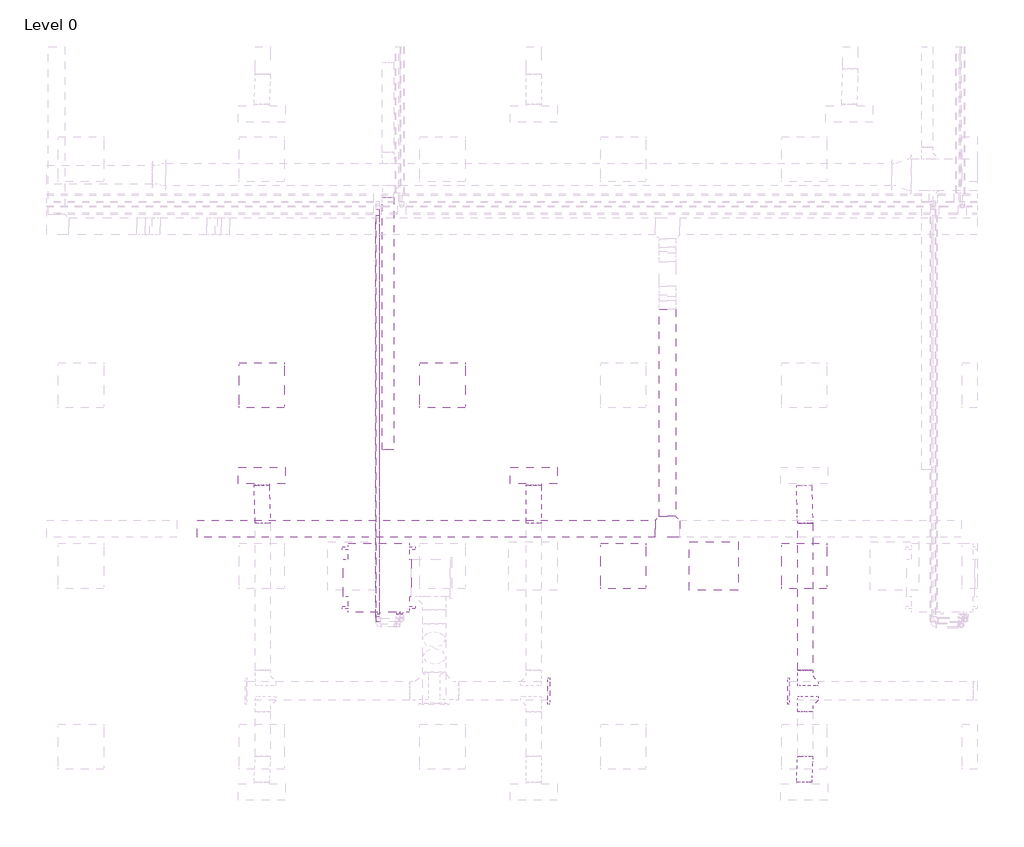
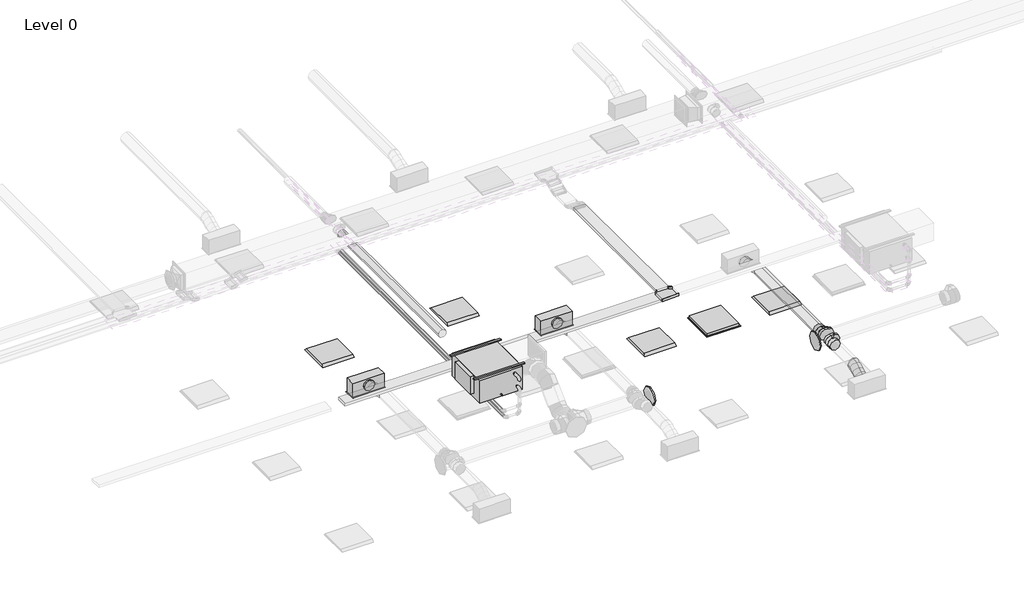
# One storey, part 9 of 34: 6 duct segments, 4 duct fittings, 4 light fixtures, 3 air terminals, 2 cable carrier segments, 2 pipe segments, 1 cable carrier fitting, 1 proxy.
"""IFC4 building model written with IfcOpenShell, lengths in millimetres."""

from ifc_helpers import new_model, si_unit, point, frame, frame_2d, origin, place, context, project, spatial, polyline, circle_curve, ellipse_curve, trimmed, segment, composite_curve, outline, extrude, transform, mapped, element, save
from ifc_brep_helpers import plane_surface, cylinder_surface, advanced_brep
from components import return_grille_rectangular_hosted_standard_7b12617c, supply_diffuser_with_plenum_linear_slot_hosted_8c379eed, fan_coil_unit_ceiling_ducted_chw_376_lps_05d42c19, cable_tray_horizontal_tee_standard_d76b5e15, dw144_round_blank_end_standard_9aa061e7, dw144_round_shoe_branch_slip_joint1_standard_2_15a2edd8, light_fixture_1c7c1157, light_fixture_b730b5ca

model = new_model("IFC4")

# Units and contexts
model_context = context("Model", 3, world=origin())
ifc_project = project(units=[si_unit("LENGTHUNIT", "METRE", prefix="MILLI")], contexts=[model_context])

# Site, building, storey
site = spatial("IfcSite", under=ifc_project)
building = spatial("IfcBuilding", under=site)
storey = spatial("IfcBuildingStorey", under=building, Name="Level 0", Elevation=0.0)

# Air terminals
placement = place(None, origin())
return_grille_rectangular_hosted_standard_shape = return_grille_rectangular_hosted_standard_7b12617c(model_context)
element("IfcAirTerminal", 1, ObjectType="Return Grille - Rectangular - Hosted : Standard", at=placement, inside=storey, context=model_context, shape_type="MappedRepresentation", body=[
    mapped(return_grille_rectangular_hosted_standard_shape, transform((22362.2000027, 3963.2000004, 2800.0), x_axis=(0.0, -1.0, 0.0), y_axis=(-1.0, 0.0, 0.0), z_axis=(0.0, 0.0, -1.0))),
])
supply_diffuser_with_plenum_linear_slot_hosted_shape = supply_diffuser_with_plenum_linear_slot_hosted_8c379eed(model_context)
element("IfcAirTerminal", 2, ObjectType="Supply Diffuser with Plenum - Linear Slot - Hosted : 24\" x 8\"-200 In Inlet  4-Slot", at=placement, inside=storey, context=model_context, shape_type="MappedRepresentation", body=[
    mapped(supply_diffuser_with_plenum_linear_slot_hosted_shape, transform((16362.2000027, 5163.2000004, 2800.0), x_axis=(-1.0, 0.0, 0.0), y_axis=(0.0, 1.0, 0.0), z_axis=(0.0, 0.0, -1.0))),
])
element("IfcAirTerminal", 3, ObjectType="Supply Diffuser with Plenum - Linear Slot - Hosted : 24\" x 8\"-200 In Inlet  4-Slot", at=placement, inside=storey, context=model_context, shape_type="MappedRepresentation", body=[
    mapped(supply_diffuser_with_plenum_linear_slot_hosted_shape, transform((19973.9000022, 5163.2000004, 2800.0), x_axis=(-1.0, 0.0, 0.0), y_axis=(0.0, 1.0, 0.0), z_axis=(0.0, 0.0, -1.0))),
])

# Proxy
fan_coil_unit_ceiling_ducted_chw_376_lps_shape = fan_coil_unit_ceiling_ducted_chw_376_lps_05d42c19(model_context)
element("IfcBuildingElementProxy", 4, Name="Fan Coil Unit - Ceiling Ducted - CHW : 376 LPS", ObjectType="Fan Coil Unit - Ceiling Ducted - CHW : 376 LPS", at=placement, inside=storey, context=model_context, shape_type="MappedRepresentation", body=[
    mapped(fan_coil_unit_ceiling_ducted_chw_376_lps_shape, transform((18321.2561025, 4263.2000004, 3222.3911538), x_axis=(0.0, -1.0, 0.0), y_axis=(1.0, 0.0, 0.0), z_axis=(0.0, 0.0, 1.0))),
])

# Cable carrier fitting
cable_tray_horizontal_tee_standard_shape = cable_tray_horizontal_tee_standard_d76b5e15(model_context)
element("IfcCableCarrierFitting", 5, ObjectType="Cable Tray Horizontal Tee : Standard", at=placement, inside=storey, context=model_context, shape_type="MappedRepresentation", body=[
    mapped(cable_tray_horizontal_tee_standard_shape, transform((21747.5028601, 4459.9103775, 3275.0), x_axis=(-1.0, 0.0, 0.0), y_axis=(0.0, -1.0, 0.0), z_axis=(0.0, 0.0, 1.0))),
])

# Cable carrier segments
element("IfcCableCarrierSegment", 6, ObjectType="Perforated Cable Tray", at=placement, inside=storey, context=model_context, shape_type="SweptSolid", body=[
    extrude(outline(polyline([(21585.0028601, 4572.4103775), (21585.0028601, 4347.4103775), (15505.0028601, 4347.4103775), (15505.0028601, 4572.4103775), (21585.0028601, 4572.4103775)])), frame((0.0, 0.0, 3250.0), z_axis=(0.0, 0.0, 1.0), x_axis=(1.0, 0.0, 0.0)), (0.0, 0.0, 1.0), 50.0),
])
element("IfcCableCarrierSegment", 7, ObjectType="Perforated Cable Tray", at=placement, inside=storey, context=model_context, shape_type="SweptSolid", body=[
    extrude(outline(polyline([(21635.0028601, 7370.2703489), (21860.0028601, 7370.2703489), (21860.0028601, 4622.4103775), (21635.0028601, 4622.4103775), (21635.0028601, 7370.2703489)])), frame((0.0, 0.0, 3250.0), z_axis=(0.0, 0.0, 1.0), x_axis=(1.0, 0.0, 0.0)), (0.0, 0.0, 1.0), 50.0),
])

# Duct fittings
dw144_round_blank_end_standard_shape = dw144_round_blank_end_standard_9aa061e7(model_context)
element("IfcDuctFitting", 8, ObjectType="DW144 Round Blank End : Standard", at=placement, inside=storey, context=model_context, shape_type="MappedRepresentation", body=[
    mapped(dw144_round_blank_end_standard_shape, transform((20161.4561025, 2306.5018192, 3072.2088531), x_axis=(1.0, 0.0, 0.0), y_axis=(0.0, 1.0, 0.0), z_axis=(0.0, 0.0, 1.0))),
])
element("IfcDuctFitting", 9, ObjectType="DW144 Round Blank End : Standard", at=placement, inside=storey, context=model_context, shape_type="MappedRepresentation", body=[
    mapped(dw144_round_blank_end_standard_shape, transform((23361.4561025, 2306.5018192, 3072.2088531), x_axis=(-1.0, 0.0, 0.0), y_axis=(0.0, -1.0, 0.0), z_axis=(0.0, 0.0, 1.0))),
])
dw144_round_shoe_branch_slip_joint1_standard_2_shape = dw144_round_shoe_branch_slip_joint1_standard_2_15a2edd8(model_context)
element("IfcDuctFitting", 10, ObjectType="DW144 Round Shoe Branch - Slip Joint1 : Standard 2", at=placement, inside=storey, context=model_context, shape_type="MappedRepresentation", body=[
    mapped(dw144_round_shoe_branch_slip_joint1_standard_2_shape, transform((23573.9000022, 2181.5018192, 3072.2088531), x_axis=(0.0, -1.0, 0.0), y_axis=(-1.0, 0.0, 0.0), z_axis=(0.0, 0.0, -1.0))),
])
element("IfcDuctFitting", 11, ObjectType="DW144 Round Shoe Branch - Slip Joint1 : Standard 2", at=placement, inside=storey, context=model_context, shape_type="MappedRepresentation", body=[
    mapped(dw144_round_shoe_branch_slip_joint1_standard_2_shape, transform((23573.9000022, 2431.5018192, 3072.2088531), x_axis=(0.0, 1.0, 0.0), y_axis=(-1.0, 0.0, 0.0), z_axis=(0.0, 0.0, 1.0))),
])

# Duct segments
element("IfcDuctSegment", 12, ObjectType="DW144 Segmented Bend / Shoe Branch", at=placement, inside=storey, context=model_context, shape_type="SweptSolid", body=[
    extrude(outline(composite_curve([segment(trimmed(circle_curve(frame_2d((3072.2088531, 23573.9000022)), 100.0), [point((3072.2088531, 23673.9000022))], [point((3172.2088531, 23573.9000022))], False, "CARTESIAN"), True, "CONTINUOUS"), segment(trimmed(circle_curve(frame_2d((3072.2088531, 23573.9000022)), 100.0), [point((3172.2088531, 23573.9000022))], [point((3072.2088531, 23473.9000022))], False, "CARTESIAN"), True, "CONTINUOUS"), segment(trimmed(circle_curve(frame_2d((3072.2088531, 23573.9000022)), 100.0), [point((3072.2088531, 23473.9000022))], [point((2972.2088531, 23573.9000022))], False, "CARTESIAN"), True, "CONTINUOUS"), segment(trimmed(circle_curve(frame_2d((3072.2088531, 23573.9000022)), 100.0), [point((2972.2088531, 23573.9000022))], [point((3072.2088531, 23673.9000022))], False, "CARTESIAN"), True, "CONTINUOUS")], self_intersect=False)), frame((0.0, 2581.5018192, 0.0), z_axis=(0.0, 1.0, 0.0), x_axis=(0.0, 0.0, 1.0)), (0.0, 0.0, 1.0), 1950.0),
])
element("IfcDuctSegment", 13, ObjectType="DW144 Segmented Bend / Shoe Branch", at=placement, inside=storey, context=model_context, shape_type="SweptSolid", body=[
    extrude(outline(composite_curve([segment(trimmed(circle_curve(frame_2d((3135.0, 18039.0080407)), 75.0), [point((3135.0, 17964.0080407))], [point((3060.0, 18039.0080407))], False, "CARTESIAN"), True, "CONTINUOUS"), segment(trimmed(circle_curve(frame_2d((3135.0, 18039.0080407)), 75.0), [point((3060.0, 18039.0080407))], [point((3135.0, 18114.0080407))], False, "CARTESIAN"), True, "CONTINUOUS"), segment(trimmed(circle_curve(frame_2d((3135.0, 18039.0080407)), 75.0), [point((3135.0, 18114.0080407))], [point((3210.0, 18039.0080407))], False, "CARTESIAN"), True, "CONTINUOUS"), segment(trimmed(circle_curve(frame_2d((3135.0, 18039.0080407)), 75.0), [point((3210.0, 18039.0080407))], [point((3135.0, 17964.0080407))], False, "CARTESIAN"), True, "CONTINUOUS")], self_intersect=False)), frame((0.0, 5510.2561435, 0.0), z_axis=(0.0, 1.0, 0.0), x_axis=(0.0, 0.0, 1.0)), (0.0, 0.0, 1.0), 3349.1601689),
])
element("IfcDuctSegment", 14, ObjectType="Flex - Round", at=placement, inside=storey, context=model_context, shape_type="AdvancedBrep", body=[
    advanced_brep(
    [(16273.9000022, 4531.5018192, 3072.2088531), (16373.9000022, 4531.5018192, 2972.2088531), (16473.9000022, 4531.5018192, 3072.2088531), (16373.9000022, 4531.5018192, 3172.2088531), (16273.9000022, 4545.0398748, 3072.2088531), (16373.9000022, 4537.729612, 2972.2088531), (16473.9000022, 4546.6519942, 3072.2088531), (16373.9000022, 4553.962257, 3172.2088531), (16262.2000027, 5034.3000004, 2954.4), (16362.2000027, 5034.3000004, 3054.4), (16462.2000027, 5034.3000004, 2954.4), (16362.2000027, 5034.3000004, 2854.4), (16272.0969471, 4656.1396088, 3054.0536514), (16372.3243089, 4634.8198875, 2956.3429867), (16472.0468075, 4660.8412095, 3053.5487883), (16371.8194457, 4682.1609309, 3151.2594529), (16268.0984043, 4779.8283707, 3013.7917909), (16368.5373668, 4751.9631047, 2918.2117629), (16468.0016006, 4785.9734489, 3012.8170622), (16367.5626381, 4813.8387149, 3108.3970903), (16264.0531974, 4904.9606101, 2973.0600649), (16364.2805591, 4883.6408888, 2875.3494002), (16464.0030578, 4909.6622108, 2972.5552017), (16363.775696, 4930.9819322, 3070.2658664), (16262.2000027, 5019.1498254, 2954.4), (16362.2000027, 5011.8395627, 2854.4), (16462.2000027, 5020.7619448, 2954.4), (16362.2000027, 5028.0722076, 3054.4)],
    [
        (0, 1, circle_curve(frame((16373.9000022, 4531.5018192, 3072.2088531), z_axis=(0.0, -1.0, 0.0), x_axis=(-1.0, 0.0, 0.0)), 100.0)),
        (1, 2, circle_curve(frame((16373.9000022, 4531.5018192, 3072.2088531), z_axis=(0.0, -1.0, 0.0), x_axis=(-1.0, 0.0, 0.0)), 100.0)),
        (2, 3, circle_curve(frame((16373.9000022, 4531.5018192, 3072.2088531), z_axis=(0.0, -1.0, 0.0), x_axis=(-1.0, 0.0, 0.0)), 100.0)),
        (3, 0, circle_curve(frame((16373.9000022, 4531.5018192, 3072.2088531), z_axis=(0.0, -1.0, 0.0), x_axis=(-1.0, 0.0, 0.0)), 100.0)),
        (0, 4),
        (4, 5, ellipse_curve(frame((16373.9000022, 4545.8459345, 3072.2088531), z_axis=(0.008033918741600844, -0.9966902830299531, 0.08089459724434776), x_axis=(-0.09850014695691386, -0.08129255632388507, -0.9918110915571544)), 100.3320708, 100.0)),
        (5, 1),
        (5, 6, ellipse_curve(frame((16373.9000022, 4545.8459345, 3072.2088531), z_axis=(0.008033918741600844, -0.9966902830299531, 0.08089459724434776), x_axis=(-0.09850014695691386, -0.08129255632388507, -0.9918110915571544)), 100.3320708, 100.0)),
        (6, 2),
        (6, 7, ellipse_curve(frame((16373.9000022, 4545.8459345, 3072.2088531), z_axis=(0.008033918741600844, -0.9966902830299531, 0.08089459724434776), x_axis=(-0.09850014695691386, -0.08129255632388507, -0.9918110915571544)), 100.3320708, 100.0)),
        (7, 3),
        (7, 4, ellipse_curve(frame((16373.9000022, 4545.8459345, 3072.2088531), z_axis=(0.008033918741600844, -0.9966902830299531, 0.08089459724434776), x_axis=(-0.09850014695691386, -0.08129255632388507, -0.9918110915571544)), 100.3320708, 100.0)),
        (8, 9, circle_curve(frame((16362.2000027, 5034.3000004, 2954.4), z_axis=(0.0, 1.0, 0.0), x_axis=(-1.0, 0.0, 0.0)), 100.0)),
        (9, 10, circle_curve(frame((16362.2000027, 5034.3000004, 2954.4), z_axis=(0.0, 1.0, 0.0), x_axis=(-1.0, 0.0, 0.0)), 100.0)),
        (10, 11, circle_curve(frame((16362.2000027, 5034.3000004, 2954.4), z_axis=(0.0, 1.0, 0.0), x_axis=(-1.0, 0.0, 0.0)), 100.0)),
        (11, 8, circle_curve(frame((16362.2000027, 5034.3000004, 2954.4), z_axis=(0.0, 1.0, 0.0), x_axis=(-1.0, 0.0, 0.0)), 100.0)),
        (4, 12),
        (12, 13, ellipse_curve(frame((16372.0718773, 4658.4904092, 3053.8012198), z_axis=(0.023438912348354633, -0.9714680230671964, 0.23600952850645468), x_axis=(-0.09600750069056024, -0.237170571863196, -0.9667123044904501)), 100.2947714, 100.0)),
        (13, 5),
        (13, 14, ellipse_curve(frame((16372.0718773, 4658.4904092, 3053.8012198), z_axis=(0.023438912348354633, -0.9714680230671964, 0.23600952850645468), x_axis=(-0.09600750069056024, -0.237170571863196, -0.9667123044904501)), 100.2947714, 100.0)),
        (14, 6),
        (14, 15, ellipse_curve(frame((16372.0718773, 4658.4904092, 3053.8012198), z_axis=(0.023438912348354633, -0.9714680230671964, 0.23600952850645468), x_axis=(-0.09600750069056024, -0.237170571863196, -0.9667123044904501)), 100.2947714, 100.0)),
        (15, 7),
        (15, 12, ellipse_curve(frame((16372.0718773, 4658.4904092, 3053.8012198), z_axis=(0.023438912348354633, -0.9714680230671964, 0.23600952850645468), x_axis=(-0.09600750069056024, -0.237170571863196, -0.9667123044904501)), 100.2947714, 100.0)),
        (12, 16),
        (16, 17, circle_curve(frame((16368.0500024, 4782.9009098, 3013.3044266), z_axis=(0.03072539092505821, -0.9504426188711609, 0.3093780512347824), x_axis=(-0.999515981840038, -0.030725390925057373, 0.0048736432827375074)), 100.0)),
        (17, 13),
        (17, 18, circle_curve(frame((16368.0500024, 4782.9009098, 3013.3044266), z_axis=(0.03072539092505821, -0.9504426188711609, 0.3093780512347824), x_axis=(-0.999515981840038, -0.030725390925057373, 0.0048736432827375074)), 100.0)),
        (18, 14),
        (18, 19, circle_curve(frame((16368.0500024, 4782.9009098, 3013.3044266), z_axis=(0.03072539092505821, -0.9504426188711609, 0.3093780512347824), x_axis=(-0.999515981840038, -0.030725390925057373, 0.0048736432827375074)), 100.0)),
        (19, 15),
        (19, 16, circle_curve(frame((16368.0500024, 4782.9009098, 3013.3044266), z_axis=(0.03072539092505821, -0.9504426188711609, 0.3093780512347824), x_axis=(-0.999515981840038, -0.030725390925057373, 0.0048736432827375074)), 100.0)),
        (16, 20),
        (20, 21, ellipse_curve(frame((16364.0281276, 4907.3114105, 2972.8076333), z_axis=(0.023438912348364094, -0.9714680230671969, 0.23600952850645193), x_axis=(0.0960075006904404, 0.23717057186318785, 0.966712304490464)), 100.2947714, 100.0)),
        (21, 17),
        (21, 22, ellipse_curve(frame((16364.0281276, 4907.3114105, 2972.8076333), z_axis=(0.023438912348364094, -0.9714680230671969, 0.23600952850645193), x_axis=(0.0960075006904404, 0.23717057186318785, 0.966712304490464)), 100.2947714, 100.0)),
        (22, 18),
        (22, 23, ellipse_curve(frame((16364.0281276, 4907.3114105, 2972.8076333), z_axis=(0.023438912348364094, -0.9714680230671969, 0.23600952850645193), x_axis=(0.0960075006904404, 0.23717057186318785, 0.966712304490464)), 100.2947714, 100.0)),
        (23, 19),
        (23, 20, ellipse_curve(frame((16364.0281276, 4907.3114105, 2972.8076333), z_axis=(0.023438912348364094, -0.9714680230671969, 0.23600952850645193), x_axis=(0.0960075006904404, 0.23717057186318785, 0.966712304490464)), 100.2947714, 100.0)),
        (20, 24),
        (24, 25, ellipse_curve(frame((16362.2000027, 5019.9558851, 2954.4), z_axis=(0.008033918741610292, -0.9966902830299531, 0.08089459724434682), x_axis=(0.09850014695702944, 0.0812925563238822, 0.9918110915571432)), 100.3320708, 100.0)),
        (25, 21),
        (25, 26, ellipse_curve(frame((16362.2000027, 5019.9558851, 2954.4), z_axis=(0.008033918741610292, -0.9966902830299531, 0.08089459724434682), x_axis=(0.09850014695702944, 0.0812925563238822, 0.9918110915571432)), 100.3320708, 100.0)),
        (26, 22),
        (26, 27, ellipse_curve(frame((16362.2000027, 5019.9558851, 2954.4), z_axis=(0.008033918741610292, -0.9966902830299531, 0.08089459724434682), x_axis=(0.09850014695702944, 0.0812925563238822, 0.9918110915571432)), 100.3320708, 100.0)),
        (27, 23),
        (27, 24, ellipse_curve(frame((16362.2000027, 5019.9558851, 2954.4), z_axis=(0.008033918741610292, -0.9966902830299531, 0.08089459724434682), x_axis=(0.09850014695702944, 0.0812925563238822, 0.9918110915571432)), 100.3320708, 100.0)),
        (24, 8),
        (11, 25),
        (10, 26),
        (9, 27),
    ],
    [
        plane_surface(frame((16273.9000022, 4531.5018192, 3072.2088531), z_axis=(0.0, -1.0, 0.0), x_axis=(0.0, 0.0, 1.0))),
        cylinder_surface(frame((16373.9000022, 4531.5018192, 3072.2088531), z_axis=(0.0, -1.0, 0.0), x_axis=(-1.0, 0.0, 0.0)), 100.0),
        plane_surface(frame((16262.2000027, 5034.3000004, 2954.4), z_axis=(0.0, 1.0, 0.0), x_axis=(0.0, 0.0, 1.0))),
        cylinder_surface(frame((16373.9000022, 4545.8459345, 3072.2088531), z_axis=(0.01601465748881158, -0.9867830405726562, 0.16125371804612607), x_axis=(-0.9998709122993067, -0.01601465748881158, 0.0012998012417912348)), 100.0),
        cylinder_surface(frame((16372.0718773, 4658.4904092, 3053.8012198), z_axis=(0.03072539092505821, -0.9504426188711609, 0.3093780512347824), x_axis=(-0.999515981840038, -0.030725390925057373, 0.0048736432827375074)), 100.0),
        cylinder_surface(frame((16368.0500024, 4782.9009098, 3013.3044266), z_axis=(0.030725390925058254, -0.9504426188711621, 0.30937805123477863), x_axis=(-0.999515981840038, -0.0307253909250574, 0.004873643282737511)), 100.0),
        cylinder_surface(frame((16364.0281276, 4907.3114105, 2972.8076333), z_axis=(0.016014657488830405, -0.9867830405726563, 0.16125371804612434), x_axis=(-0.9998709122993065, -0.016014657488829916, 0.0012998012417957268)), 100.0),
        cylinder_surface(frame((16362.2000027, 5019.9558851, 2954.4), z_axis=(0.0, -1.0, 0.0), x_axis=(-1.0, 0.0, 0.0)), 100.0),
    ],
    [
        (0, [[1, 2, 3, 4]]),
        (1, [[-1, 5, 6, 7]]),
        (1, [[-2, -7, 8, 9]]),
        (1, [[-3, -9, 10, 11]]),
        (1, [[-4, -11, 12, -5]]),
        (2, [[13, 14, 15, 16]]),
        (3, [[-6, 17, 18, 19]]),
        (3, [[-8, -19, 20, 21]]),
        (3, [[-10, -21, 22, 23]]),
        (3, [[-12, -23, 24, -17]]),
        (4, [[-18, 25, 26, 27]]),
        (4, [[-20, -27, 28, 29]]),
        (4, [[-22, -29, 30, 31]]),
        (4, [[-24, -31, 32, -25]]),
        (5, [[-26, 33, 34, 35]]),
        (5, [[-28, -35, 36, 37]]),
        (5, [[-30, -37, 38, 39]]),
        (5, [[-32, -39, 40, -33]]),
        (6, [[-34, 41, 42, 43]]),
        (6, [[-36, -43, 44, 45]]),
        (6, [[-38, -45, 46, 47]]),
        (6, [[-40, -47, 48, -41]]),
        (7, [[-42, 49, -16, 50]]),
        (7, [[-44, -50, -15, 51]]),
        (7, [[-46, -51, -14, 52]]),
        (7, [[-48, -52, -13, -49]]),
    ],
),
])
element("IfcDuctSegment", 15, ObjectType="Flex - Round", at=placement, inside=storey, context=model_context, shape_type="AdvancedBrep", body=[
    advanced_brep(
    [(19873.9000022, 4531.5018192, 3072.2088531), (19973.9000022, 4531.5018192, 2972.2088531), (20073.9000022, 4531.5018192, 3072.2088531), (19973.9000022, 4531.5018192, 3172.2088531), (19873.9000022, 4545.8487649, 3072.2088531), (19973.9000022, 4537.7308336, 2972.2088531), (20073.9000022, 4545.8487649, 3072.2088531), (19973.9000022, 4553.9666963, 3172.2088531), (19873.9000022, 5034.3000004, 2954.4), (19973.9000022, 5034.3000004, 3054.4), (20073.9000022, 5034.3000004, 2954.4), (19973.9000022, 5034.3000004, 2854.4), (19873.9000022, 4658.4779853, 3053.8012198), (19973.9000022, 4634.8007072, 2956.3441723), (20073.9000022, 4658.4779853, 3053.8012198), (19973.9000022, 4682.1552634, 3151.2582674), (19873.9000022, 4782.9009098, 3013.3044266), (19973.9000022, 4751.9512855, 2918.21436), (20073.9000022, 4782.9009098, 3013.3044266), (19973.9000022, 4813.8505341, 3108.3944931), (19873.9000022, 4907.3238344, 2972.8076333), (19973.9000022, 4883.6465563, 2875.3505857), (20073.9000022, 4907.3238344, 2972.8076333), (19973.9000022, 4931.0011125, 3070.2646809), (19873.9000022, 5019.9530547, 2954.4), (19973.9000022, 5011.8351234, 2854.4), (20073.9000022, 5019.9530547, 2954.4), (19973.9000022, 5028.070986, 3054.4)],
    [
        (0, 1, circle_curve(frame((19973.9000022, 4531.5018192, 3072.2088531), z_axis=(0.0, -1.0, 0.0), x_axis=(-1.0, 0.0, 0.0)), 100.0)),
        (1, 2, circle_curve(frame((19973.9000022, 4531.5018192, 3072.2088531), z_axis=(0.0, -1.0, 0.0), x_axis=(-1.0, 0.0, 0.0)), 100.0)),
        (2, 3, circle_curve(frame((19973.9000022, 4531.5018192, 3072.2088531), z_axis=(0.0, -1.0, 0.0), x_axis=(-1.0, 0.0, 0.0)), 100.0)),
        (3, 0, circle_curve(frame((19973.9000022, 4531.5018192, 3072.2088531), z_axis=(0.0, -1.0, 0.0), x_axis=(-1.0, 0.0, 0.0)), 100.0)),
        (0, 4),
        (4, 5, ellipse_curve(frame((19973.9000022, 4545.8487649, 3072.2088531), z_axis=(0.0, -0.9967211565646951, 0.08091313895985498), x_axis=(0.0, -0.08091313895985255, -0.9967211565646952)), 100.328963, 100.0)),
        (5, 1),
        (5, 6, ellipse_curve(frame((19973.9000022, 4545.8487649, 3072.2088531), z_axis=(0.0, -0.9967211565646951, 0.08091313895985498), x_axis=(0.0, -0.08091313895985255, -0.9967211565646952)), 100.328963, 100.0)),
        (6, 2),
        (6, 7, ellipse_curve(frame((19973.9000022, 4545.8487649, 3072.2088531), z_axis=(0.0, -0.9967211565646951, 0.08091313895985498), x_axis=(0.0, -0.08091313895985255, -0.9967211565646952)), 100.328963, 100.0)),
        (7, 3),
        (7, 4, ellipse_curve(frame((19973.9000022, 4545.8487649, 3072.2088531), z_axis=(0.0, -0.9967211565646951, 0.08091313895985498), x_axis=(0.0, -0.08091313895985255, -0.9967211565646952)), 100.328963, 100.0)),
        (8, 9, circle_curve(frame((19973.9000022, 5034.3000004, 2954.4), z_axis=(0.0, 1.0, 0.0), x_axis=(-1.0, 0.0, 0.0)), 100.0)),
        (9, 10, circle_curve(frame((19973.9000022, 5034.3000004, 2954.4), z_axis=(0.0, 1.0, 0.0), x_axis=(-1.0, 0.0, 0.0)), 100.0)),
        (10, 11, circle_curve(frame((19973.9000022, 5034.3000004, 2954.4), z_axis=(0.0, 1.0, 0.0), x_axis=(-1.0, 0.0, 0.0)), 100.0)),
        (11, 8, circle_curve(frame((19973.9000022, 5034.3000004, 2954.4), z_axis=(0.0, 1.0, 0.0), x_axis=(-1.0, 0.0, 0.0)), 100.0)),
        (4, 12),
        (12, 13, ellipse_curve(frame((19973.9000022, 4658.4779853, 3053.8012198), z_axis=(0.0, -0.9717328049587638, 0.23608336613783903), x_axis=(0.0, -0.23608336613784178, -0.9717328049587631)), 100.2920217, 100.0)),
        (13, 5),
        (13, 14, ellipse_curve(frame((19973.9000022, 4658.4779853, 3053.8012198), z_axis=(0.0, -0.9717328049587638, 0.23608336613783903), x_axis=(0.0, -0.23608336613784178, -0.9717328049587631)), 100.2920217, 100.0)),
        (14, 6),
        (14, 15, ellipse_curve(frame((19973.9000022, 4658.4779853, 3053.8012198), z_axis=(0.0, -0.9717328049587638, 0.23608336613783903), x_axis=(0.0, -0.23608336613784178, -0.9717328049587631)), 100.2920217, 100.0)),
        (15, 7),
        (15, 12, ellipse_curve(frame((19973.9000022, 4658.4779853, 3053.8012198), z_axis=(0.0, -0.9717328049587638, 0.23608336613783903), x_axis=(0.0, -0.23608336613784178, -0.9717328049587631)), 100.2920217, 100.0)),
        (12, 16),
        (16, 17, circle_curve(frame((19973.9000022, 4782.9009098, 3013.3044266), z_axis=(0.0, -0.9509006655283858, 0.3094962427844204), x_axis=(-1.0, 0.0, 0.0)), 100.0)),
        (17, 13),
        (17, 18, circle_curve(frame((19973.9000022, 4782.9009098, 3013.3044266), z_axis=(0.0, -0.9509006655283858, 0.3094962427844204), x_axis=(-1.0, 0.0, 0.0)), 100.0)),
        (18, 14),
        (18, 19, circle_curve(frame((19973.9000022, 4782.9009098, 3013.3044266), z_axis=(0.0, -0.9509006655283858, 0.3094962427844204), x_axis=(-1.0, 0.0, 0.0)), 100.0)),
        (19, 15),
        (19, 16, circle_curve(frame((19973.9000022, 4782.9009098, 3013.3044266), z_axis=(0.0, -0.9509006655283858, 0.3094962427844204), x_axis=(-1.0, 0.0, 0.0)), 100.0)),
        (16, 20),
        (20, 21, ellipse_curve(frame((19973.9000022, 4907.3238344, 2972.8076333), z_axis=(0.0, -0.9717328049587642, 0.236083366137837), x_axis=(0.0, 0.23608336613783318, 0.9717328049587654)), 100.2920217, 100.0)),
        (21, 17),
        (21, 22, ellipse_curve(frame((19973.9000022, 4907.3238344, 2972.8076333), z_axis=(0.0, -0.9717328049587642, 0.236083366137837), x_axis=(0.0, 0.23608336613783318, 0.9717328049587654)), 100.2920217, 100.0)),
        (22, 18),
        (22, 23, ellipse_curve(frame((19973.9000022, 4907.3238344, 2972.8076333), z_axis=(0.0, -0.9717328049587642, 0.236083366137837), x_axis=(0.0, 0.23608336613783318, 0.9717328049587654)), 100.2920217, 100.0)),
        (23, 19),
        (23, 20, ellipse_curve(frame((19973.9000022, 4907.3238344, 2972.8076333), z_axis=(0.0, -0.9717328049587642, 0.236083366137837), x_axis=(0.0, 0.23608336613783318, 0.9717328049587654)), 100.2920217, 100.0)),
        (20, 24),
        (24, 25, ellipse_curve(frame((19973.9000022, 5019.9530547, 2954.4), z_axis=(0.0, -0.9967211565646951, 0.08091313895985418), x_axis=(0.0, 0.08091313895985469, 0.9967211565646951)), 100.328963, 100.0)),
        (25, 21),
        (25, 26, ellipse_curve(frame((19973.9000022, 5019.9530547, 2954.4), z_axis=(0.0, -0.9967211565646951, 0.08091313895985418), x_axis=(0.0, 0.08091313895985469, 0.9967211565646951)), 100.328963, 100.0)),
        (26, 22),
        (26, 27, ellipse_curve(frame((19973.9000022, 5019.9530547, 2954.4), z_axis=(0.0, -0.9967211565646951, 0.08091313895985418), x_axis=(0.0, 0.08091313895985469, 0.9967211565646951)), 100.328963, 100.0)),
        (27, 23),
        (27, 24, ellipse_curve(frame((19973.9000022, 5019.9530547, 2954.4), z_axis=(0.0, -0.9967211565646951, 0.08091313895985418), x_axis=(0.0, 0.08091313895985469, 0.9967211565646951)), 100.328963, 100.0)),
        (24, 8),
        (11, 25),
        (10, 26),
        (9, 27),
    ],
    [
        plane_surface(frame((19873.9000022, 4531.5018192, 3072.2088531), z_axis=(0.0, -1.0, 0.0), x_axis=(0.0, 0.0, 1.0))),
        cylinder_surface(frame((19973.9000022, 4531.5018192, 3072.2088531), z_axis=(0.0, -1.0, 0.0), x_axis=(-1.0, 0.0, 0.0)), 100.0),
        plane_surface(frame((19873.9000022, 5034.3000004, 2954.4), z_axis=(0.0, 1.0, 0.0), x_axis=(0.0, 0.0, 1.0))),
        cylinder_surface(frame((19973.9000022, 4545.8487649, 3072.2088531), z_axis=(0.0, -0.9869061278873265, 0.16129567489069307), x_axis=(-1.0, 0.0, 0.0)), 100.0),
        cylinder_surface(frame((19973.9000022, 4658.4779853, 3053.8012198), z_axis=(0.0, -0.9509006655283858, 0.3094962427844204), x_axis=(-1.0, 0.0, 0.0)), 100.0),
        cylinder_surface(frame((19973.9000022, 4782.9009098, 3013.3044266), z_axis=(0.0, -0.9509006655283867, 0.30949624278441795), x_axis=(-1.0, 0.0, 0.0)), 100.0),
        cylinder_surface(frame((19973.9000022, 4907.3238344, 2972.8076333), z_axis=(0.0, -0.9869061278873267, 0.16129567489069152), x_axis=(-1.0, 0.0, 0.0)), 100.0),
        cylinder_surface(frame((19973.9000022, 5019.9530547, 2954.4), z_axis=(0.0, -1.0, 0.0), x_axis=(-1.0, 0.0, 0.0)), 100.0),
    ],
    [
        (0, [[1, 2, 3, 4]]),
        (1, [[-1, 5, 6, 7]]),
        (1, [[-2, -7, 8, 9]]),
        (1, [[-3, -9, 10, 11]]),
        (1, [[-4, -11, 12, -5]]),
        (2, [[13, 14, 15, 16]]),
        (3, [[-6, 17, 18, 19]]),
        (3, [[-8, -19, 20, 21]]),
        (3, [[-10, -21, 22, 23]]),
        (3, [[-12, -23, 24, -17]]),
        (4, [[-18, 25, 26, 27]]),
        (4, [[-20, -27, 28, 29]]),
        (4, [[-22, -29, 30, 31]]),
        (4, [[-24, -31, 32, -25]]),
        (5, [[-26, 33, 34, 35]]),
        (5, [[-28, -35, 36, 37]]),
        (5, [[-30, -37, 38, 39]]),
        (5, [[-32, -39, 40, -33]]),
        (6, [[-34, 41, 42, 43]]),
        (6, [[-36, -43, 44, 45]]),
        (6, [[-38, -45, 46, 47]]),
        (6, [[-40, -47, 48, -41]]),
        (7, [[-42, 49, -16, 50]]),
        (7, [[-44, -50, -15, 51]]),
        (7, [[-46, -51, -14, 52]]),
        (7, [[-48, -52, -13, -49]]),
    ],
),
])
element("IfcDuctSegment", 16, ObjectType="Flex - Round", at=placement, inside=storey, context=model_context, shape_type="AdvancedBrep", body=[
    advanced_brep(
    [(23673.9000022, 1441.5018192, 3072.2088531), (23573.9000022, 1441.5018192, 2972.2088531), (23473.9000022, 1441.5018192, 3072.2088531), (23573.9000022, 1441.5018192, 3172.2088531), (23673.9000022, 1419.9886644, 3072.2088531), (23573.9000022, 1434.4041273, 2972.2088531), (23473.9000022, 1422.5932881, 3072.2088531), (23573.9000022, 1408.1778252, 3172.2088531), (23662.2000027, 1092.1000004, 2954.4), (23562.2000027, 1092.1000004, 3054.4), (23462.2000027, 1092.1000004, 2954.4), (23562.2000027, 1092.1000004, 2854.4), (23672.0154345, 1348.8904029, 3053.2328893), (23572.6402079, 1386.8764181, 2959.5238159), (23472.1283201, 1355.7538157, 3054.3695504), (23571.5035467, 1317.7678004, 3148.0786237), (23667.9552415, 1262.5544078, 3012.3502664), (23569.0041626, 1309.5595036, 2922.9119919), (23468.1447633, 1271.0474118, 3014.2585867), (23567.0958423, 1224.0423161, 3103.6968612), (23663.9716847, 1177.8480039, 2972.2393027), (23564.5964582, 1215.8340192, 2878.5302294), (23464.0845704, 1184.7114168, 2973.3759639), (23563.459797, 1146.7254015, 3067.0850372), (23662.2000027, 1111.0085316, 2954.4), (23562.2000027, 1125.4239944, 2854.4), (23462.2000027, 1113.6131552, 2954.4), (23562.2000027, 1099.1976924, 3054.4)],
    [
        (0, 1, circle_curve(frame((23573.9000022, 1441.5018192, 3072.2088531), z_axis=(0.0, 1.0, 0.0), x_axis=(1.0, 0.0, 0.0)), 100.0)),
        (1, 2, circle_curve(frame((23573.9000022, 1441.5018192, 3072.2088531), z_axis=(0.0, 1.0, 0.0), x_axis=(1.0, 0.0, 0.0)), 100.0)),
        (2, 3, circle_curve(frame((23573.9000022, 1441.5018192, 3072.2088531), z_axis=(0.0, 1.0, 0.0), x_axis=(1.0, 0.0, 0.0)), 100.0)),
        (3, 0, circle_curve(frame((23573.9000022, 1441.5018192, 3072.2088531), z_axis=(0.0, 1.0, 0.0), x_axis=(1.0, 0.0, 0.0)), 100.0)),
        (0, 4),
        (4, 5, ellipse_curve(frame((23573.9000022, 1421.2909763, 3072.2088531), z_axis=(0.012911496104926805, 0.991428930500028, 0.13000757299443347), x_axis=(-0.0979801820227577, 0.13064714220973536, -0.986575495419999)), 100.8645168, 100.0)),
        (5, 1),
        (5, 6, ellipse_curve(frame((23573.9000022, 1421.2909763, 3072.2088531), z_axis=(0.012911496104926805, 0.991428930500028, 0.13000757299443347), x_axis=(-0.0979801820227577, 0.13064714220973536, -0.986575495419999)), 100.8645168, 100.0)),
        (6, 2),
        (6, 7, ellipse_curve(frame((23573.9000022, 1421.2909763, 3072.2088531), z_axis=(0.012911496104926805, 0.991428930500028, 0.13000757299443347), x_axis=(-0.0979801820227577, 0.13064714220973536, -0.986575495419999)), 100.8645168, 100.0)),
        (7, 3),
        (7, 4, ellipse_curve(frame((23573.9000022, 1421.2909763, 3072.2088531), z_axis=(0.012911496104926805, 0.991428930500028, 0.13000757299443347), x_axis=(-0.0979801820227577, 0.13064714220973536, -0.986575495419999)), 100.8645168, 100.0)),
        (8, 9, circle_curve(frame((23562.2000027, 1092.1000004, 2954.4), z_axis=(0.0, -1.0, 0.0), x_axis=(1.0, 0.0, 0.0)), 100.0)),
        (9, 10, circle_curve(frame((23562.2000027, 1092.1000004, 2954.4), z_axis=(0.0, -1.0, 0.0), x_axis=(1.0, 0.0, 0.0)), 100.0)),
        (10, 11, circle_curve(frame((23562.2000027, 1092.1000004, 2954.4), z_axis=(0.0, -1.0, 0.0), x_axis=(1.0, 0.0, 0.0)), 100.0)),
        (11, 8, circle_curve(frame((23562.2000027, 1092.1000004, 2954.4), z_axis=(0.0, -1.0, 0.0), x_axis=(1.0, 0.0, 0.0)), 100.0)),
        (4, 12),
        (12, 13, ellipse_curve(frame((23572.0718773, 1352.3221093, 3053.8012198), z_axis=(0.03417490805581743, 0.9383065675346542, 0.34411169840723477), x_axis=(-0.09273024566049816, 0.34580454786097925, -0.9337131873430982)), 100.4159667, 100.0)),
        (13, 5),
        (13, 14, ellipse_curve(frame((23572.0718773, 1352.3221093, 3053.8012198), z_axis=(0.03417490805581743, 0.9383065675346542, 0.34411169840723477), x_axis=(-0.09273024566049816, 0.34580454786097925, -0.9337131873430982)), 100.4159667, 100.0)),
        (14, 6),
        (14, 15, ellipse_curve(frame((23572.0718773, 1352.3221093, 3053.8012198), z_axis=(0.03417490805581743, 0.9383065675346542, 0.34411169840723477), x_axis=(-0.09273024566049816, 0.34580454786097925, -0.9337131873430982)), 100.4159667, 100.0)),
        (15, 7),
        (15, 12, ellipse_curve(frame((23572.0718773, 1352.3221093, 3053.8012198), z_axis=(0.03417490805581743, 0.9383065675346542, 0.34411169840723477), x_axis=(-0.09273024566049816, 0.34580454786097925, -0.9337131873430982)), 100.4159667, 100.0)),
        (12, 16),
        (16, 17, circle_curve(frame((23568.0500024, 1266.8009098, 3013.3044266), z_axis=(0.04246501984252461, 0.9029767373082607, 0.42758593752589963), x_axis=(0.9990523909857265, -0.042465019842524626, -0.009541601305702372)), 100.0)),
        (17, 13),
        (17, 18, circle_curve(frame((23568.0500024, 1266.8009098, 3013.3044266), z_axis=(0.04246501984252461, 0.9029767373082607, 0.42758593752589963), x_axis=(0.9990523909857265, -0.042465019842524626, -0.009541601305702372)), 100.0)),
        (18, 14),
        (18, 19, circle_curve(frame((23568.0500024, 1266.8009098, 3013.3044266), z_axis=(0.04246501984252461, 0.9029767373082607, 0.42758593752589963), x_axis=(0.9990523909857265, -0.042465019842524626, -0.009541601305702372)), 100.0)),
        (19, 15),
        (19, 16, circle_curve(frame((23568.0500024, 1266.8009098, 3013.3044266), z_axis=(0.04246501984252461, 0.9029767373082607, 0.42758593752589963), x_axis=(0.9990523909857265, -0.042465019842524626, -0.009541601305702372)), 100.0)),
        (16, 20),
        (20, 21, ellipse_curve(frame((23564.0281276, 1181.2797104, 2972.8076333), z_axis=(0.03417490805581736, 0.9383065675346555, 0.34411169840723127), x_axis=(0.09273024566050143, -0.345804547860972, 0.9337131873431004)), 100.4159667, 100.0)),
        (21, 17),
        (21, 22, ellipse_curve(frame((23564.0281276, 1181.2797104, 2972.8076333), z_axis=(0.03417490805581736, 0.9383065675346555, 0.34411169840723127), x_axis=(0.09273024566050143, -0.345804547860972, 0.9337131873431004)), 100.4159667, 100.0)),
        (22, 18),
        (22, 23, ellipse_curve(frame((23564.0281276, 1181.2797104, 2972.8076333), z_axis=(0.03417490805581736, 0.9383065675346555, 0.34411169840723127), x_axis=(0.09273024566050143, -0.345804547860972, 0.9337131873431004)), 100.4159667, 100.0)),
        (23, 19),
        (23, 20, ellipse_curve(frame((23564.0281276, 1181.2797104, 2972.8076333), z_axis=(0.03417490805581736, 0.9383065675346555, 0.34411169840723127), x_axis=(0.09273024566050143, -0.345804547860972, 0.9337131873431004)), 100.4159667, 100.0)),
        (20, 24),
        (24, 25, ellipse_curve(frame((23562.2000027, 1112.3108434, 2954.4), z_axis=(0.012911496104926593, 0.9914289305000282, 0.13000757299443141), x_axis=(0.09798018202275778, -0.1306471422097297, 0.9865754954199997)), 100.8645168, 100.0)),
        (25, 21),
        (25, 26, ellipse_curve(frame((23562.2000027, 1112.3108434, 2954.4), z_axis=(0.012911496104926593, 0.9914289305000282, 0.13000757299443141), x_axis=(0.09798018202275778, -0.1306471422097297, 0.9865754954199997)), 100.8645168, 100.0)),
        (26, 22),
        (26, 27, ellipse_curve(frame((23562.2000027, 1112.3108434, 2954.4), z_axis=(0.012911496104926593, 0.9914289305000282, 0.13000757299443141), x_axis=(0.09798018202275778, -0.1306471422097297, 0.9865754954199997)), 100.8645168, 100.0)),
        (27, 23),
        (27, 24, ellipse_curve(frame((23562.2000027, 1112.3108434, 2954.4), z_axis=(0.012911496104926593, 0.9914289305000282, 0.13000757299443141), x_axis=(0.09798018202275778, -0.1306471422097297, 0.9865754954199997)), 100.8645168, 100.0)),
        (24, 8),
        (11, 25),
        (10, 26),
        (9, 27),
    ],
    [
        plane_surface(frame((23473.9000022, 1441.5018192, 3072.2088531), z_axis=(0.0, 1.0, 0.0), x_axis=(0.0, 0.0, -1.0))),
        cylinder_surface(frame((23573.9000022, 1441.5018192, 3072.2088531), z_axis=(0.0, 1.0, 0.0), x_axis=(1.0, 0.0, 0.0)), 100.0),
        plane_surface(frame((23462.2000027, 1092.1000004, 2954.4), z_axis=(0.0, -1.0, 0.0), x_axis=(0.0, 0.0, -1.0))),
        cylinder_surface(frame((23573.9000022, 1421.2909763, 3072.2088531), z_axis=(0.025601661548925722, 0.9658626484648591, 0.25778653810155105), x_axis=(0.999666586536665, -0.025601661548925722, -0.00335718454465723)), 100.0),
        cylinder_surface(frame((23572.0718773, 1352.3221093, 3053.8012198), z_axis=(0.04246501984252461, 0.9029767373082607, 0.42758593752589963), x_axis=(0.9990523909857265, -0.042465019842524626, -0.009541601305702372)), 100.0),
        cylinder_surface(frame((23568.0500024, 1266.8009098, 3013.3044266), z_axis=(0.04246501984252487, 0.9029767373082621, 0.4275859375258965), x_axis=(0.9990523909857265, -0.04246501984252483, -0.009541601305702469)), 100.0),
        cylinder_surface(frame((23564.0281276, 1181.2797104, 2972.8076333), z_axis=(0.025601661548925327, 0.9658626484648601, 0.2577865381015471), x_axis=(0.9996665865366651, -0.025601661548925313, -0.003357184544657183)), 100.0),
        cylinder_surface(frame((23562.2000027, 1112.3108434, 2954.4), z_axis=(0.0, 1.0, 0.0), x_axis=(1.0, 0.0, 0.0)), 100.0),
    ],
    [
        (0, [[1, 2, 3, 4]]),
        (1, [[-1, 5, 6, 7]]),
        (1, [[-2, -7, 8, 9]]),
        (1, [[-3, -9, 10, 11]]),
        (1, [[-4, -11, 12, -5]]),
        (2, [[13, 14, 15, 16]]),
        (3, [[-6, 17, 18, 19]]),
        (3, [[-8, -19, 20, 21]]),
        (3, [[-10, -21, 22, 23]]),
        (3, [[-12, -23, 24, -17]]),
        (4, [[-18, 25, 26, 27]]),
        (4, [[-20, -27, 28, 29]]),
        (4, [[-22, -29, 30, 31]]),
        (4, [[-24, -31, 32, -25]]),
        (5, [[-26, 33, 34, 35]]),
        (5, [[-28, -35, 36, 37]]),
        (5, [[-30, -37, 38, 39]]),
        (5, [[-32, -39, 40, -33]]),
        (6, [[-34, 41, 42, 43]]),
        (6, [[-36, -43, 44, 45]]),
        (6, [[-38, -45, 46, 47]]),
        (6, [[-40, -47, 48, -41]]),
        (7, [[-42, 49, -16, 50]]),
        (7, [[-44, -50, -15, 51]]),
        (7, [[-46, -51, -14, 52]]),
        (7, [[-48, -52, -13, -49]]),
    ],
),
])
element("IfcDuctSegment", 17, ObjectType="Flex - Round", at=placement, inside=storey, context=model_context, shape_type="AdvancedBrep", body=[
    advanced_brep(
    [(23473.9000022, 4531.5018192, 3072.2088531), (23573.9000022, 4531.5018192, 2972.2088531), (23673.9000022, 4531.5018192, 3072.2088531), (23573.9000022, 4531.5018192, 3172.2088531), (23473.9000022, 4545.0398748, 3072.2088531), (23573.9000022, 4537.729612, 2972.2088531), (23673.9000022, 4546.6519942, 3072.2088531), (23573.9000022, 4553.962257, 3172.2088531), (23462.2000027, 5034.3000004, 2954.4), (23562.2000027, 5034.3000004, 3054.4), (23662.2000027, 5034.3000004, 2954.4), (23562.2000027, 5034.3000004, 2854.4), (23472.0969471, 4656.1396088, 3054.0536514), (23572.3243089, 4634.8198875, 2956.3429867), (23672.0468075, 4660.8412095, 3053.5487883), (23571.8194457, 4682.1609309, 3151.2594529), (23468.0984043, 4779.8283707, 3013.7917909), (23568.5373668, 4751.9631047, 2918.2117629), (23668.0016006, 4785.9734489, 3012.8170622), (23567.5626381, 4813.8387149, 3108.3970903), (23464.0531974, 4904.9606101, 2973.0600649), (23564.2805591, 4883.6408888, 2875.3494002), (23664.0030578, 4909.6622108, 2972.5552017), (23563.775696, 4930.9819322, 3070.2658664), (23462.2000027, 5019.1498254, 2954.4), (23562.2000027, 5011.8395627, 2854.4), (23662.2000027, 5020.7619448, 2954.4), (23562.2000027, 5028.0722076, 3054.4)],
    [
        (0, 1, circle_curve(frame((23573.9000022, 4531.5018192, 3072.2088531), z_axis=(0.0, -1.0, 0.0), x_axis=(-1.0, 0.0, 0.0)), 100.0)),
        (1, 2, circle_curve(frame((23573.9000022, 4531.5018192, 3072.2088531), z_axis=(0.0, -1.0, 0.0), x_axis=(-1.0, 0.0, 0.0)), 100.0)),
        (2, 3, circle_curve(frame((23573.9000022, 4531.5018192, 3072.2088531), z_axis=(0.0, -1.0, 0.0), x_axis=(-1.0, 0.0, 0.0)), 100.0)),
        (3, 0, circle_curve(frame((23573.9000022, 4531.5018192, 3072.2088531), z_axis=(0.0, -1.0, 0.0), x_axis=(-1.0, 0.0, 0.0)), 100.0)),
        (0, 4),
        (4, 5, ellipse_curve(frame((23573.9000022, 4545.8459345, 3072.2088531), z_axis=(0.008033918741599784, -0.996690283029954, 0.08089459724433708), x_axis=(-0.09850014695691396, -0.08129255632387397, -0.9918110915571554)), 100.3320708, 100.0)),
        (5, 1),
        (5, 6, ellipse_curve(frame((23573.9000022, 4545.8459345, 3072.2088531), z_axis=(0.008033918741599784, -0.996690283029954, 0.08089459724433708), x_axis=(-0.09850014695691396, -0.08129255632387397, -0.9918110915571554)), 100.3320708, 100.0)),
        (6, 2),
        (6, 7, ellipse_curve(frame((23573.9000022, 4545.8459345, 3072.2088531), z_axis=(0.008033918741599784, -0.996690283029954, 0.08089459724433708), x_axis=(-0.09850014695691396, -0.08129255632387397, -0.9918110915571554)), 100.3320708, 100.0)),
        (7, 3),
        (7, 4, ellipse_curve(frame((23573.9000022, 4545.8459345, 3072.2088531), z_axis=(0.008033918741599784, -0.996690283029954, 0.08089459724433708), x_axis=(-0.09850014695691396, -0.08129255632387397, -0.9918110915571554)), 100.3320708, 100.0)),
        (8, 9, circle_curve(frame((23562.2000027, 5034.3000004, 2954.4), z_axis=(0.0, 1.0, 0.0), x_axis=(-1.0, 0.0, 0.0)), 100.0)),
        (9, 10, circle_curve(frame((23562.2000027, 5034.3000004, 2954.4), z_axis=(0.0, 1.0, 0.0), x_axis=(-1.0, 0.0, 0.0)), 100.0)),
        (10, 11, circle_curve(frame((23562.2000027, 5034.3000004, 2954.4), z_axis=(0.0, 1.0, 0.0), x_axis=(-1.0, 0.0, 0.0)), 100.0)),
        (11, 8, circle_curve(frame((23562.2000027, 5034.3000004, 2954.4), z_axis=(0.0, 1.0, 0.0), x_axis=(-1.0, 0.0, 0.0)), 100.0)),
        (4, 12),
        (12, 13, ellipse_curve(frame((23572.0718773, 4658.4904092, 3053.8012198), z_axis=(0.023438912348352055, -0.9714680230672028, 0.23600952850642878), x_axis=(-0.09600750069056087, -0.23717057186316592, -0.9667123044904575)), 100.2947714, 100.0)),
        (13, 5),
        (13, 14, ellipse_curve(frame((23572.0718773, 4658.4904092, 3053.8012198), z_axis=(0.023438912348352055, -0.9714680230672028, 0.23600952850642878), x_axis=(-0.09600750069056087, -0.23717057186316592, -0.9667123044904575)), 100.2947714, 100.0)),
        (14, 6),
        (14, 15, ellipse_curve(frame((23572.0718773, 4658.4904092, 3053.8012198), z_axis=(0.023438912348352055, -0.9714680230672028, 0.23600952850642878), x_axis=(-0.09600750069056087, -0.23717057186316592, -0.9667123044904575)), 100.2947714, 100.0)),
        (15, 7),
        (15, 12, ellipse_curve(frame((23572.0718773, 4658.4904092, 3053.8012198), z_axis=(0.023438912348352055, -0.9714680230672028, 0.23600952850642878), x_axis=(-0.09600750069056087, -0.23717057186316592, -0.9667123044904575)), 100.2947714, 100.0)),
        (12, 16),
        (16, 17, circle_curve(frame((23568.0500024, 4782.9009098, 3013.3044266), z_axis=(0.03072539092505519, -0.9504426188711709, 0.3093780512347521), x_axis=(-0.999515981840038, -0.030725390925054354, 0.004873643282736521)), 100.0)),
        (17, 13),
        (17, 18, circle_curve(frame((23568.0500024, 4782.9009098, 3013.3044266), z_axis=(0.03072539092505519, -0.9504426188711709, 0.3093780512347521), x_axis=(-0.999515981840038, -0.030725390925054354, 0.004873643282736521)), 100.0)),
        (18, 14),
        (18, 19, circle_curve(frame((23568.0500024, 4782.9009098, 3013.3044266), z_axis=(0.03072539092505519, -0.9504426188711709, 0.3093780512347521), x_axis=(-0.999515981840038, -0.030725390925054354, 0.004873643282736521)), 100.0)),
        (19, 15),
        (19, 16, circle_curve(frame((23568.0500024, 4782.9009098, 3013.3044266), z_axis=(0.03072539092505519, -0.9504426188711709, 0.3093780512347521), x_axis=(-0.999515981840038, -0.030725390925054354, 0.004873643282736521)), 100.0)),
        (16, 20),
        (20, 21, ellipse_curve(frame((23564.0281276, 4907.3114105, 2972.8076333), z_axis=(0.023438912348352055, -0.9714680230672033, 0.23600952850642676), x_axis=(0.0960075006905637, 0.23717057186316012, 0.9667123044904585)), 100.2947714, 100.0)),
        (21, 17),
        (21, 22, ellipse_curve(frame((23564.0281276, 4907.3114105, 2972.8076333), z_axis=(0.023438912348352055, -0.9714680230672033, 0.23600952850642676), x_axis=(0.0960075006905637, 0.23717057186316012, 0.9667123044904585)), 100.2947714, 100.0)),
        (22, 18),
        (22, 23, ellipse_curve(frame((23564.0281276, 4907.3114105, 2972.8076333), z_axis=(0.023438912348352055, -0.9714680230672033, 0.23600952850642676), x_axis=(0.0960075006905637, 0.23717057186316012, 0.9667123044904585)), 100.2947714, 100.0)),
        (23, 19),
        (23, 20, ellipse_curve(frame((23564.0281276, 4907.3114105, 2972.8076333), z_axis=(0.023438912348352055, -0.9714680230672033, 0.23600952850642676), x_axis=(0.0960075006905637, 0.23717057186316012, 0.9667123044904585)), 100.2947714, 100.0)),
        (20, 24),
        (24, 25, ellipse_curve(frame((23562.2000027, 5019.9558851, 2954.4), z_axis=(0.008033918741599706, -0.9966902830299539, 0.08089459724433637), x_axis=(0.09850014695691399, 0.0812925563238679, 0.9918110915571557)), 100.3320708, 100.0)),
        (25, 21),
        (25, 26, ellipse_curve(frame((23562.2000027, 5019.9558851, 2954.4), z_axis=(0.008033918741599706, -0.9966902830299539, 0.08089459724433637), x_axis=(0.09850014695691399, 0.0812925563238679, 0.9918110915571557)), 100.3320708, 100.0)),
        (26, 22),
        (26, 27, ellipse_curve(frame((23562.2000027, 5019.9558851, 2954.4), z_axis=(0.008033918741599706, -0.9966902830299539, 0.08089459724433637), x_axis=(0.09850014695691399, 0.0812925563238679, 0.9918110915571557)), 100.3320708, 100.0)),
        (27, 23),
        (27, 24, ellipse_curve(frame((23562.2000027, 5019.9558851, 2954.4), z_axis=(0.008033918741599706, -0.9966902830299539, 0.08089459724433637), x_axis=(0.09850014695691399, 0.0812925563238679, 0.9918110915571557)), 100.3320708, 100.0)),
        (24, 8),
        (11, 25),
        (10, 26),
        (9, 27),
    ],
    [
        plane_surface(frame((23473.9000022, 4531.5018192, 3072.2088531), z_axis=(0.0, -1.0, 0.0), x_axis=(0.0, 0.0, 1.0))),
        cylinder_surface(frame((23573.9000022, 4531.5018192, 3072.2088531), z_axis=(0.0, -1.0, 0.0), x_axis=(-1.0, 0.0, 0.0)), 100.0),
        plane_surface(frame((23462.2000027, 5034.3000004, 2954.4), z_axis=(0.0, 1.0, 0.0), x_axis=(0.0, 0.0, 1.0))),
        cylinder_surface(frame((23573.9000022, 4545.8459345, 3072.2088531), z_axis=(0.016014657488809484, -0.9867830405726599, 0.16125371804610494), x_axis=(-0.9998709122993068, -0.01601465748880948, 0.0012998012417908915)), 100.0),
        cylinder_surface(frame((23572.0718773, 4658.4904092, 3053.8012198), z_axis=(0.03072539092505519, -0.9504426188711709, 0.3093780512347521), x_axis=(-0.999515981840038, -0.030725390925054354, 0.004873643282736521)), 100.0),
        cylinder_surface(frame((23568.0500024, 4782.9009098, 3013.3044266), z_axis=(0.030725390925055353, -0.9504426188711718, 0.30937805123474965), x_axis=(-0.9995159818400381, -0.030725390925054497, 0.004873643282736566)), 100.0),
        cylinder_surface(frame((23564.0281276, 4907.3114105, 2972.8076333), z_axis=(0.016014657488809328, -0.9867830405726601, 0.16125371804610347), x_axis=(-0.9998709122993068, -0.016014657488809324, 0.001299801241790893)), 100.0),
        cylinder_surface(frame((23562.2000027, 5019.9558851, 2954.4), z_axis=(0.0, -1.0, 0.0), x_axis=(-1.0, 0.0, 0.0)), 100.0),
    ],
    [
        (0, [[1, 2, 3, 4]]),
        (1, [[-1, 5, 6, 7]]),
        (1, [[-2, -7, 8, 9]]),
        (1, [[-3, -9, 10, 11]]),
        (1, [[-4, -11, 12, -5]]),
        (2, [[13, 14, 15, 16]]),
        (3, [[-6, 17, 18, 19]]),
        (3, [[-8, -19, 20, 21]]),
        (3, [[-10, -21, 22, 23]]),
        (3, [[-12, -23, 24, -17]]),
        (4, [[-18, 25, 26, 27]]),
        (4, [[-20, -27, 28, 29]]),
        (4, [[-22, -29, 30, 31]]),
        (4, [[-24, -31, 32, -25]]),
        (5, [[-26, 33, 34, 35]]),
        (5, [[-28, -35, 36, 37]]),
        (5, [[-30, -37, 38, 39]]),
        (5, [[-32, -39, 40, -33]]),
        (6, [[-34, 41, 42, 43]]),
        (6, [[-36, -43, 44, 45]]),
        (6, [[-38, -45, 46, 47]]),
        (6, [[-40, -47, 48, -41]]),
        (7, [[-42, 49, -16, 50]]),
        (7, [[-44, -50, -15, 51]]),
        (7, [[-46, -51, -14, 52]]),
        (7, [[-48, -52, -13, -49]]),
    ],
),
])

# Light fixtures
light_fixture_shape = light_fixture_1c7c1157(model_context)
element("IfcLightFixture", 18, ObjectType="ELEKTRA Plain Recessed Lighting Fixture : 24\" x 24\" - 230", at=placement, inside=storey, context=model_context, shape_type="MappedRepresentation", body=[
    mapped(light_fixture_shape, transform((20862.2000027, 3663.2000004, 2800.0), x_axis=(1.0, 0.0, 0.0), y_axis=(0.0, -1.0, 0.0), z_axis=(0.0, 0.0, -1.0))),
])
element("IfcLightFixture", 19, ObjectType="ELEKTRA Plain Recessed Lighting Fixture : 24\" x 24\" - 230", at=placement, inside=storey, context=model_context, shape_type="MappedRepresentation", body=[
    mapped(light_fixture_shape, transform((16062.2000027, 6063.2000004, 2800.0), x_axis=(1.0, 0.0, 0.0), y_axis=(0.0, -1.0, 0.0), z_axis=(0.0, 0.0, -1.0))),
])
element("IfcLightFixture", 20, ObjectType="ELEKTRA Plain Recessed Lighting Fixture : 24\" x 24\" - 230", at=placement, inside=storey, context=model_context, shape_type="MappedRepresentation", body=[
    mapped(light_fixture_shape, transform((18462.2000027, 6063.2000004, 2800.0), x_axis=(1.0, 0.0, 0.0), y_axis=(0.0, -1.0, 0.0), z_axis=(0.0, 0.0, -1.0))),
])
light_fixture_2_shape = light_fixture_b730b5ca(model_context)
element("IfcLightFixture", 21, ObjectType="ELEKTRA EM Recessed Lighting Fixture : 24\" x 24\" - 230", at=placement, inside=storey, context=model_context, shape_type="MappedRepresentation", body=[
    mapped(light_fixture_2_shape, transform((23262.2000027, 3663.2000004, 2800.0), x_axis=(1.0, 0.0, 0.0), y_axis=(0.0, -1.0, 0.0), z_axis=(0.0, 0.0, -1.0))),
])

# Pipe segments
element("IfcPipeSegment", 22, ObjectType="Carbon Steel - Threaded", at=placement, inside=storey, context=model_context, shape_type="SweptSolid", body=[
    extrude(outline(composite_curve([segment(trimmed(circle_curve(frame_2d((2980.0, 17898.7529576)), 21.45), [point((2980.0, 17920.2029576))], [point((3001.45, 17898.7529576))], False, "CARTESIAN"), True, "CONTINUOUS"), segment(trimmed(circle_curve(frame_2d((2980.0, 17898.7529576)), 21.45), [point((3001.45, 17898.7529576))], [point((2980.0, 17877.3029576))], False, "CARTESIAN"), True, "CONTINUOUS"), segment(trimmed(circle_curve(frame_2d((2980.0, 17898.7529576)), 21.45), [point((2980.0, 17877.3029576))], [point((2958.55, 17898.7529576))], False, "CARTESIAN"), True, "CONTINUOUS"), segment(trimmed(circle_curve(frame_2d((2980.0, 17898.7529576)), 21.45), [point((2958.55, 17898.7529576))], [point((2980.0, 17920.2029576))], False, "CARTESIAN"), True, "CONTINUOUS")], self_intersect=False)), frame((0.0, 3291.7427522, 0.0), z_axis=(0.0, 1.0, 0.0), x_axis=(0.0, 0.0, 1.0)), (0.0, 0.0, 1.0), 5328.6137662),
])
element("IfcPipeSegment", 23, ObjectType="Carbon Steel - Threaded", at=placement, inside=storey, context=model_context, shape_type="SweptSolid", body=[
    extrude(outline(composite_curve([segment(trimmed(circle_curve(frame_2d((2893.9343179, 17903.0774681)), 21.45), [point((2893.9343179, 17881.6274681))], [point((2872.4843179, 17903.0774681))], False, "CARTESIAN"), True, "CONTINUOUS"), segment(trimmed(circle_curve(frame_2d((2893.9343179, 17903.0774681)), 21.45), [point((2872.4843179, 17903.0774681))], [point((2893.9343179, 17924.5274681))], False, "CARTESIAN"), True, "CONTINUOUS"), segment(trimmed(circle_curve(frame_2d((2893.9343179, 17903.0774681)), 21.45), [point((2893.9343179, 17924.5274681))], [point((2915.3843179, 17903.0774681))], False, "CARTESIAN"), True, "CONTINUOUS"), segment(trimmed(circle_curve(frame_2d((2893.9343179, 17903.0774681)), 21.45), [point((2915.3843179, 17903.0774681))], [point((2893.9343179, 17881.6274681))], False, "CARTESIAN"), True, "CONTINUOUS")], self_intersect=False)), frame((0.0, 3222.232951, 0.0), z_axis=(0.0, 1.0, 0.0), x_axis=(0.0, 0.0, 1.0)), (0.0, 0.0, 1.0), 5474.9243983),
])

save(model, "model.ifc")
